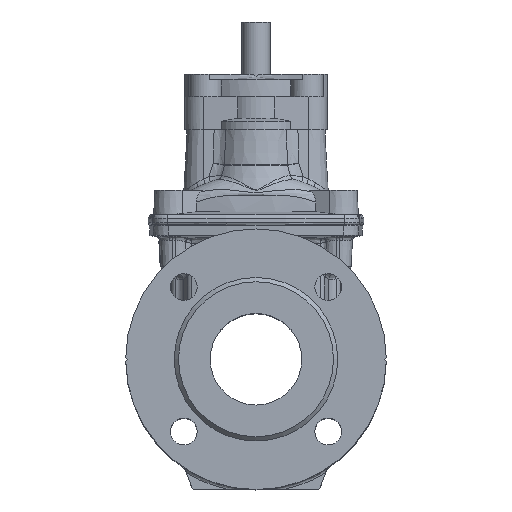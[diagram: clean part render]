
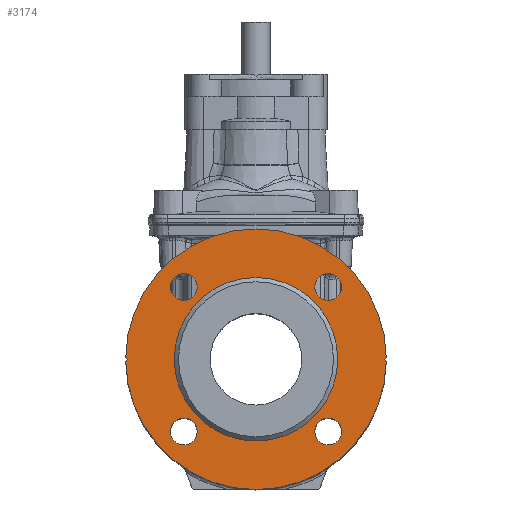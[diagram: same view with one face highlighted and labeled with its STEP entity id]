
A CAD part, top view. The second image highlights one B-rep face of the part: STEP entity #3174.
In plain terms, the highlighted planar face has unit normal (0, 0, 1).
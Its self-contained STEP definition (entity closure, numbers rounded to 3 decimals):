
#414 = FACE_BOUND ( 'NONE', #20159, .T. ) ;
#515 = DIRECTION ( 'NONE',  ( 0., -1., 0. ) ) ;
#679 = AXIS2_PLACEMENT_3D ( 'NONE', #3556, #1885, #7013 ) ;
#710 = CARTESIAN_POINT ( 'NONE',  ( 0., 0., 82. ) ) ;
#740 = CIRCLE ( 'NONE', #13246, 92.5 ) ;
#806 = DIRECTION ( 'NONE',  ( -1., 0., 0. ) ) ;
#807 = AXIS2_PLACEMENT_3D ( 'NONE', #7726, #14558, #806 ) ;
#839 = VERTEX_POINT ( 'NONE', #11124 ) ;
#962 = EDGE_CURVE ( 'NONE', #18792, #18792, #12025, .T. ) ;
#1000 = EDGE_CURVE ( 'NONE', #6006, #10178, #21271, .T. ) ;
#1054 = ORIENTED_EDGE ( 'NONE', *, *, #13827, .F. ) ;
#1314 = DIRECTION ( 'NONE',  ( 0., 0., 1. ) ) ;
#1516 = DIRECTION ( 'NONE',  ( -0.707, 0.707, 0. ) ) ;
#1885 = DIRECTION ( 'NONE',  ( 0., 0., -1. ) ) ;
#1904 = CARTESIAN_POINT ( 'NONE',  ( 91., 0., 82. ) ) ;
#2726 = DIRECTION ( 'NONE',  ( 0., -1., 0. ) ) ;
#3037 = CARTESIAN_POINT ( 'NONE',  ( -51.265, -51.265, 82. ) ) ;
#3174 = ADVANCED_FACE ( 'NONE', ( #414, #19331, #5796, #7333, #8793, #5566 ), #3889, .T. ) ;
#3556 = CARTESIAN_POINT ( 'NONE',  ( 51.265, 51.265, 82. ) ) ;
#3726 = EDGE_LOOP ( 'NONE', ( #16315, #20649, #11590, #11397, #18753, #7727 ) ) ;
#3889 = PLANE ( 'NONE',  #17526 ) ;
#4197 = LINE ( 'NONE', #11581, #9213 ) ;
#4378 = EDGE_CURVE ( 'NONE', #18594, #5901, #15355, .T. ) ;
#4633 = VERTEX_POINT ( 'NONE', #6093 ) ;
#4823 = ORIENTED_EDGE ( 'NONE', *, *, #7489, .F. ) ;
#5083 = DIRECTION ( 'NONE',  ( 0.707, 0.707, 0. ) ) ;
#5566 = FACE_BOUND ( 'NONE', #13647, .T. ) ;
#5641 = AXIS2_PLACEMENT_3D ( 'NONE', #11610, #1314, #8123 ) ;
#5703 = CARTESIAN_POINT ( 'NONE',  ( 0., 0., 82. ) ) ;
#5796 = FACE_BOUND ( 'NONE', #10001, .T. ) ;
#5901 = VERTEX_POINT ( 'NONE', #8919 ) ;
#6006 = VERTEX_POINT ( 'NONE', #1904 ) ;
#6093 = CARTESIAN_POINT ( 'NONE',  ( 41.765, 51.265, 82. ) ) ;
#6213 = CARTESIAN_POINT ( 'NONE',  ( -51.265, 51.265, 82. ) ) ;
#6426 = DIRECTION ( 'NONE',  ( -0.707, 0.707, 0. ) ) ;
#6486 = EDGE_CURVE ( 'NONE', #5901, #13703, #4197, .T. ) ;
#6855 = EDGE_LOOP ( 'NONE', ( #4823 ) ) ;
#7013 = DIRECTION ( 'NONE',  ( -1., 0., 0. ) ) ;
#7333 = FACE_BOUND ( 'NONE', #6855, .T. ) ;
#7489 = EDGE_CURVE ( 'NONE', #839, #839, #16769, .T. ) ;
#7726 = CARTESIAN_POINT ( 'NONE',  ( 51.265, -51.265, 82. ) ) ;
#7727 = ORIENTED_EDGE ( 'NONE', *, *, #4378, .F. ) ;
#7866 = VECTOR ( 'NONE', #6426, 1000. ) ;
#7955 = EDGE_LOOP ( 'NONE', ( #14546 ) ) ;
#8086 = VERTEX_POINT ( 'NONE', #19642 ) ;
#8123 = DIRECTION ( 'NONE',  ( 0., -1., 0. ) ) ;
#8524 = EDGE_CURVE ( 'NONE', #18594, #18877, #21732, .T. ) ;
#8715 = EDGE_CURVE ( 'NONE', #4633, #4633, #9595, .T. ) ;
#8793 = FACE_OUTER_BOUND ( 'NONE', #3726, .T. ) ;
#8919 = CARTESIAN_POINT ( 'NONE',  ( -91., 0., 82. ) ) ;
#9213 = VECTOR ( 'NONE', #1516, 1000. ) ;
#9478 = CARTESIAN_POINT ( 'NONE',  ( 110., 19., 82. ) ) ;
#9595 = CIRCLE ( 'NONE', #679, 9.5 ) ;
#9741 = CIRCLE ( 'NONE', #807, 9.5 ) ;
#9989 = AXIS2_PLACEMENT_3D ( 'NONE', #3037, #17909, #14768 ) ;
#10001 = EDGE_LOOP ( 'NONE', ( #1054 ) ) ;
#10014 = LINE ( 'NONE', #11587, #7866 ) ;
#10178 = VERTEX_POINT ( 'NONE', #22162 ) ;
#10329 = CARTESIAN_POINT ( 'NONE',  ( -16.5, 74.5, 82. ) ) ;
#10703 = CARTESIAN_POINT ( 'NONE',  ( 0., 58., 82. ) ) ;
#10916 = DIRECTION ( 'NONE',  ( 1., 0., 0. ) ) ;
#10946 = DIRECTION ( 'NONE',  ( 0.707, 0.707, 0. ) ) ;
#11124 = CARTESIAN_POINT ( 'NONE',  ( -41.765, 51.265, 82. ) ) ;
#11233 = CARTESIAN_POINT ( 'NONE',  ( -41.765, -51.265, 82. ) ) ;
#11397 = ORIENTED_EDGE ( 'NONE', *, *, #18768, .T. ) ;
#11581 = CARTESIAN_POINT ( 'NONE',  ( -110., 19., 82. ) ) ;
#11587 = CARTESIAN_POINT ( 'NONE',  ( 16.5, 74.5, 82. ) ) ;
#11590 = ORIENTED_EDGE ( 'NONE', *, *, #1000, .T. ) ;
#11610 = CARTESIAN_POINT ( 'NONE',  ( 0., 0., 82. ) ) ;
#11763 = CARTESIAN_POINT ( 'NONE',  ( -92.488, 1.488, 82. ) ) ;
#12025 = CIRCLE ( 'NONE', #19549, 58. ) ;
#12477 = CARTESIAN_POINT ( 'NONE',  ( 0., -58., 82. ) ) ;
#12521 = DIRECTION ( 'NONE',  ( 0., -1., 0. ) ) ;
#12788 = VERTEX_POINT ( 'NONE', #11233 ) ;
#13246 = AXIS2_PLACEMENT_3D ( 'NONE', #710, #16032, #2726 ) ;
#13647 = EDGE_LOOP ( 'NONE', ( #21179 ) ) ;
#13703 = VERTEX_POINT ( 'NONE', #11763 ) ;
#13827 = EDGE_CURVE ( 'NONE', #12788, #12788, #19649, .T. ) ;
#13928 = CARTESIAN_POINT ( 'NONE',  ( -92.488, -1.488, 82. ) ) ;
#14546 = ORIENTED_EDGE ( 'NONE', *, *, #8715, .T. ) ;
#14558 = DIRECTION ( 'NONE',  ( 0., 0., -1. ) ) ;
#14768 = DIRECTION ( 'NONE',  ( 1., 0., 0. ) ) ;
#14950 = VECTOR ( 'NONE', #10946, 1000. ) ;
#15355 = LINE ( 'NONE', #10329, #20059 ) ;
#16032 = DIRECTION ( 'NONE',  ( 0., 0., 1. ) ) ;
#16315 = ORIENTED_EDGE ( 'NONE', *, *, #8524, .T. ) ;
#16590 = CARTESIAN_POINT ( 'NONE',  ( 92.488, -1.488, 82. ) ) ;
#16769 = CIRCLE ( 'NONE', #17128, 9.5 ) ;
#17128 = AXIS2_PLACEMENT_3D ( 'NONE', #6213, #19541, #10916 ) ;
#17526 = AXIS2_PLACEMENT_3D ( 'NONE', #10703, #17537, #515 ) ;
#17537 = DIRECTION ( 'NONE',  ( 0., 0., 1. ) ) ;
#17550 = EDGE_CURVE ( 'NONE', #18877, #6006, #10014, .T. ) ;
#17643 = ORIENTED_EDGE ( 'NONE', *, *, #21653, .T. ) ;
#17909 = DIRECTION ( 'NONE',  ( 0., 0., 1. ) ) ;
#18594 = VERTEX_POINT ( 'NONE', #13928 ) ;
#18753 = ORIENTED_EDGE ( 'NONE', *, *, #6486, .F. ) ;
#18768 = EDGE_CURVE ( 'NONE', #10178, #13703, #740, .T. ) ;
#18792 = VERTEX_POINT ( 'NONE', #12477 ) ;
#18877 = VERTEX_POINT ( 'NONE', #16590 ) ;
#19331 = FACE_BOUND ( 'NONE', #7955, .T. ) ;
#19541 = DIRECTION ( 'NONE',  ( 0., 0., 1. ) ) ;
#19549 = AXIS2_PLACEMENT_3D ( 'NONE', #5703, #20714, #12521 ) ;
#19642 = CARTESIAN_POINT ( 'NONE',  ( 41.765, -51.265, 82. ) ) ;
#19649 = CIRCLE ( 'NONE', #9989, 9.5 ) ;
#20059 = VECTOR ( 'NONE', #5083, 1000. ) ;
#20159 = EDGE_LOOP ( 'NONE', ( #17643 ) ) ;
#20649 = ORIENTED_EDGE ( 'NONE', *, *, #17550, .T. ) ;
#20714 = DIRECTION ( 'NONE',  ( 0., 0., 1. ) ) ;
#21179 = ORIENTED_EDGE ( 'NONE', *, *, #962, .F. ) ;
#21271 = LINE ( 'NONE', #9478, #14950 ) ;
#21653 = EDGE_CURVE ( 'NONE', #8086, #8086, #9741, .T. ) ;
#21732 = CIRCLE ( 'NONE', #5641, 92.5 ) ;
#22162 = CARTESIAN_POINT ( 'NONE',  ( 92.488, 1.488, 82. ) ) ;
